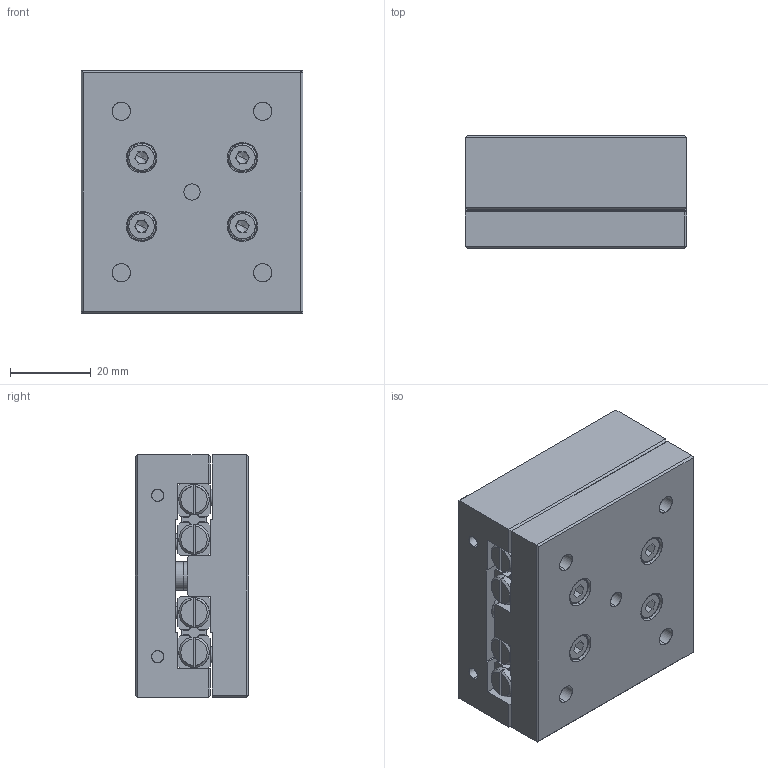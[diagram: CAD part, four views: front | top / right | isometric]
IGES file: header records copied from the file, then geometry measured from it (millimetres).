
Start section: SolidWorks IGES file using analytic representation for surfaces
Global section: file name: C:\Documents and Settings\IanO.IANOHOME\My Documents\Wix and Auto CAD Work\CAD Models\Parametric Models\Auto Models\L1020\L1020_IGES\L1020.060-055.igs; native system: SolidWorks 2009; preprocessor: SolidWorks 2009; author: IanO; date: 110922.162544; units: millimetre
Bounding box: 55 x 28 x 60 mm (x, y, z)
Surface area: 36169.6 mm2 (no closed solid volume)
Topology: 0 solids, 0 shells, 792 faces, 10272 edges, 10252 vertices
Faces by surface type: bspline 516, revolution 276
